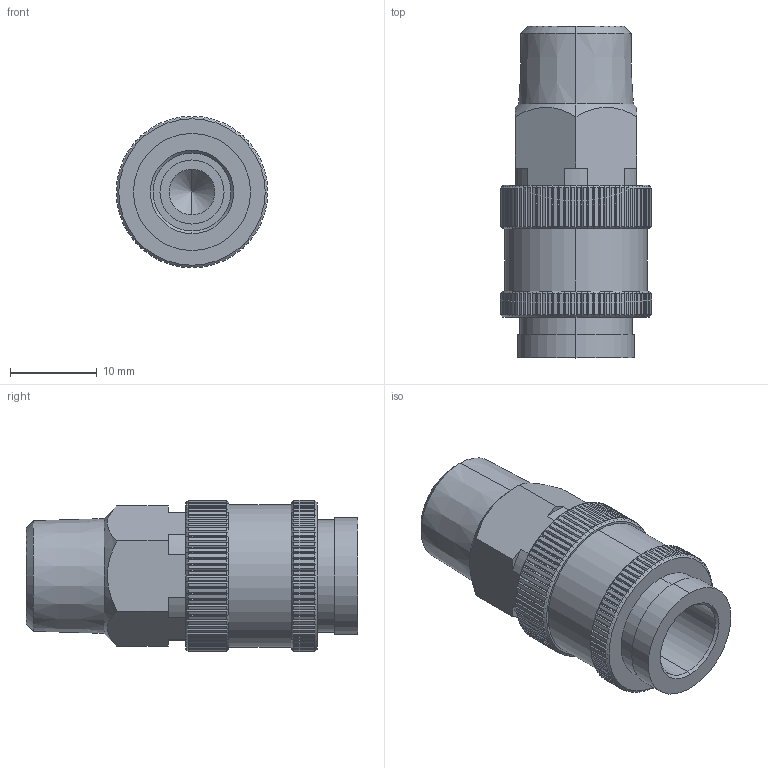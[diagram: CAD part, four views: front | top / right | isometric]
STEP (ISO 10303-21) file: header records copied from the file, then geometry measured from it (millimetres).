
FILE_DESCRIPTION (( 'STEP AP214' ), '1' );
FILE_NAME ('TZS-SM.STEP', '2022-04-26T15:50:42', ( '' ), ( '' ), 'SwSTEP 2.0', 'SolidWorks 2022', '' );
FILE_SCHEMA (( 'AUTOMOTIVE_DESIGN' ));
Length unit declared in the file: millimetre
Products named in the file (1): TZS-SM
Bounding box: 17.5 x 38.3 x 17.5 mm (x, y, z)
Volume: 5029.7 mm3; surface area: 3702.8 mm2
Topology: 1 solids, 1 shells, 546 faces, 1585 edges, 1049 vertices
Faces by surface type: plane 343, cylinder 183, cone 20
Entity records: 24697 total; most frequent: CARTESIAN_POINT 5169, ORIENTED_EDGE 3166, DIRECTION 2415, EDGE_CURVE 1583, VERTEX_POINT 1049, AXIS2_PLACEMENT_3D 931, B_SPLINE_CURVE_WITH_KNOTS 646, EDGE_LOOP 556
